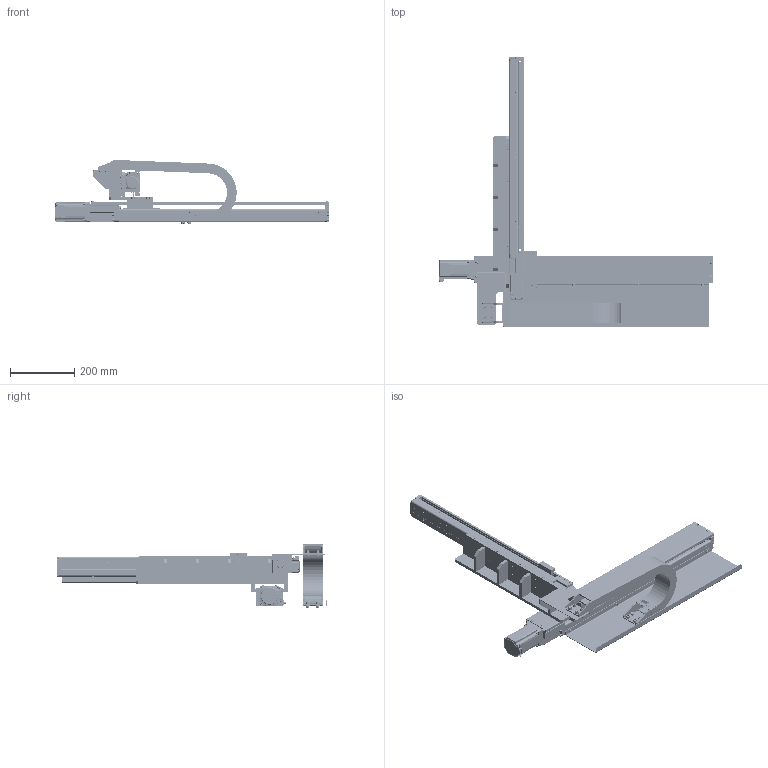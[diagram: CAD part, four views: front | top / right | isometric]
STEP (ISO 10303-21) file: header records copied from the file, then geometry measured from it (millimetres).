
FILE_DESCRIPTION(('CATIA V5 STEP','CAx-IF Rec.Pracs.--- Model Styling and Organization---1.5--- 2016-08-15','CAx-IF Rec.Pracs.---Supplemental Geometry---1.0---2011-11-01','CAx-IF Rec.Pracs.--- Composite Materials ---3.4---2017-06-13','CAx-IF Rec.Pracs.---Tessellated 3D Geometry---1.0---2015-12-17'),'2;1');
FILE_NAME('C:\Users\21007\Desktop\184802403166005\Submit\TSKR46SKR33-4031660.stp','2024-10-23T05:28:54+00:00',('none'),('none'),'CATIA Version 5-6 Release 2024 SP2','CATIA V5 STEP AP242 v3','none');
FILE_SCHEMA(('AP242_MANAGED_MODEL_BASED_3D_ENGINEERING_MIM_LF {1 0 10303 442 1 1 4}'));
Products named in the file (4): TSKR46SKR33-4031660; X_TSKR46SKR33-4031660; Y_TSKR46SKR33-4031660; YT_TSKR46SKR33-4031660
Assembly tree (3 placements, depth 2):
  TSKR46SKR33-4031660
    X_TSKR46SKR33-4031660
    Y_TSKR46SKR33-4031660
    YT_TSKR46SKR33-4031660
Bounding box: 850.5 x 837 x 196.4 mm (x, y, z)
Volume: 4867656.3 mm3; surface area: 1604768 mm2
Topology: 22 solids, 78 shells, 5907 faces, 15080 edges, 9594 vertices
Faces by surface type: plane 2793, cylinder 2151, cone 738, torus 210, sphere 8, revolution 7
Entity records: 163394 total; most frequent: CARTESIAN_POINT 32359, ORIENTED_EDGE 29700, DIRECTION 20680, EDGE_CURVE 14850, VERTEX_POINT 9592, AXIS2_PLACEMENT_3D 8837, VECTOR 8480, LINE 8480
